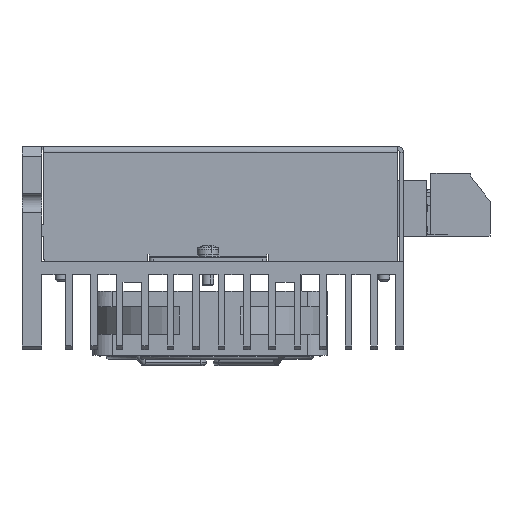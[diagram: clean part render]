
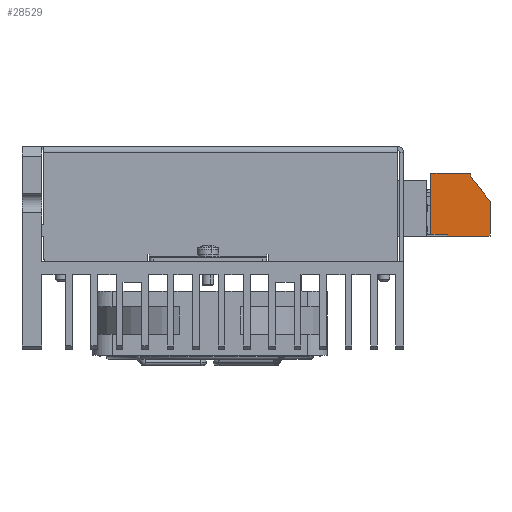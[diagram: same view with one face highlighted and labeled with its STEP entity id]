
A CAD part, left-side view. The second image highlights one B-rep face of the part: STEP entity #28529.
In plain terms, the highlighted planar face has unit normal (-1, 0, 0).
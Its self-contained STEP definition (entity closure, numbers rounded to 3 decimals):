
#335 = EDGE_CURVE ( 'NONE', #77596, #50419, #4626, .T. ) ;
#1155 = DIRECTION ( 'NONE',  ( 0., -1., 0. ) ) ;
#1834 = CARTESIAN_POINT ( 'NONE',  ( -53.21, -67.12, 21.85 ) ) ;
#4158 = DIRECTION ( 'NONE',  ( 0., 0.617, 0.787 ) ) ;
#4205 = CARTESIAN_POINT ( 'NONE',  ( -53.21, -57., 22.6 ) ) ;
#4626 = LINE ( 'NONE', #23368, #54051 ) ;
#4687 = CARTESIAN_POINT ( 'NONE',  ( -53.21, -57., 7.1 ) ) ;
#5167 = ORIENTED_EDGE ( 'NONE', *, *, #17827, .T. ) ;
#7011 = EDGE_CURVE ( 'NONE', #53136, #18068, #33094, .T. ) ;
#7972 = EDGE_CURVE ( 'NONE', #53136, #46392, #25127, .T. ) ;
#14170 = VERTEX_POINT ( 'NONE', #38019 ) ;
#15624 = EDGE_CURVE ( 'NONE', #65568, #50419, #22128, .T. ) ;
#16614 = EDGE_LOOP ( 'NONE', ( #51351, #48481, #5167, #62455, #58965, #42019, #29238, #67018 ) ) ;
#17827 = EDGE_CURVE ( 'NONE', #46392, #65568, #30625, .T. ) ;
#17930 = VECTOR ( 'NONE', #56279, 1000. ) ;
#17975 = CARTESIAN_POINT ( 'NONE',  ( -53.21, -56.1, 7.1 ) ) ;
#18068 = VERTEX_POINT ( 'NONE', #4205 ) ;
#18457 = CARTESIAN_POINT ( 'NONE',  ( -53.21, -61.2, 7.1 ) ) ;
#21250 = CARTESIAN_POINT ( 'NONE',  ( -53.21, -67.12, -31.664 ) ) ;
#22128 = LINE ( 'NONE', #42340, #25213 ) ;
#22526 = LINE ( 'NONE', #35304, #38704 ) ;
#23097 = PLANE ( 'NONE',  #50319 ) ;
#23368 = CARTESIAN_POINT ( 'NONE',  ( -53.21, -72.1, 15.5 ) ) ;
#24749 = EDGE_CURVE ( 'NONE', #77596, #45973, #22526, .T. ) ;
#25022 = VECTOR ( 'NONE', #1155, 1000. ) ;
#25127 = LINE ( 'NONE', #17975, #25022 ) ;
#25213 = VECTOR ( 'NONE', #66698, 1000. ) ;
#27635 = DIRECTION ( 'NONE',  ( 0., 0., 1. ) ) ;
#28529 = ADVANCED_FACE ( 'NONE', ( #34679 ), #23097, .T. ) ;
#29238 = ORIENTED_EDGE ( 'NONE', *, *, #58835, .T. ) ;
#29864 = DIRECTION ( 'NONE',  ( -1., 0., 0. ) ) ;
#30221 = CARTESIAN_POINT ( 'NONE',  ( -53.21, -61.2, 10.33 ) ) ;
#30625 = LINE ( 'NONE', #30221, #42021 ) ;
#33094 = LINE ( 'NONE', #57442, #72132 ) ;
#34679 = FACE_OUTER_BOUND ( 'NONE', #16614, .T. ) ;
#35304 = CARTESIAN_POINT ( 'NONE',  ( -53.21, -72.1, 15.5 ) ) ;
#35754 = DIRECTION ( 'NONE',  ( 0., 0., -1. ) ) ;
#36245 = CARTESIAN_POINT ( 'NONE',  ( -53.21, -61.2, 6.6 ) ) ;
#38019 = CARTESIAN_POINT ( 'NONE',  ( -53.21, -67.12, 22.6 ) ) ;
#38704 = VECTOR ( 'NONE', #4158, 1000. ) ;
#39851 = VECTOR ( 'NONE', #27635, 1000. ) ;
#40680 = CARTESIAN_POINT ( 'NONE',  ( -53.21, -72.1, 15.5 ) ) ;
#42019 = ORIENTED_EDGE ( 'NONE', *, *, #24749, .T. ) ;
#42021 = VECTOR ( 'NONE', #60569, 1000. ) ;
#42340 = CARTESIAN_POINT ( 'NONE',  ( -53.21, -61.2, 6.6 ) ) ;
#45973 = VERTEX_POINT ( 'NONE', #1834 ) ;
#46392 = VERTEX_POINT ( 'NONE', #18457 ) ;
#48481 = ORIENTED_EDGE ( 'NONE', *, *, #7972, .T. ) ;
#50319 = AXIS2_PLACEMENT_3D ( 'NONE', #78168, #29864, #54211 ) ;
#50419 = VERTEX_POINT ( 'NONE', #59587 ) ;
#51351 = ORIENTED_EDGE ( 'NONE', *, *, #7011, .F. ) ;
#51570 = LINE ( 'NONE', #21250, #39851 ) ;
#53136 = VERTEX_POINT ( 'NONE', #4687 ) ;
#54051 = VECTOR ( 'NONE', #35754, 1000. ) ;
#54211 = DIRECTION ( 'NONE',  ( 0., 0., 1. ) ) ;
#56044 = EDGE_CURVE ( 'NONE', #18068, #14170, #63074, .T. ) ;
#56279 = DIRECTION ( 'NONE',  ( 0., -1., 0. ) ) ;
#57442 = CARTESIAN_POINT ( 'NONE',  ( -53.21, -57., -31.664 ) ) ;
#58835 = EDGE_CURVE ( 'NONE', #45973, #14170, #51570, .T. ) ;
#58965 = ORIENTED_EDGE ( 'NONE', *, *, #335, .F. ) ;
#59587 = CARTESIAN_POINT ( 'NONE',  ( -53.21, -72.1, 6.6 ) ) ;
#60569 = DIRECTION ( 'NONE',  ( 0., 0., -1. ) ) ;
#62241 = DIRECTION ( 'NONE',  ( 0., 0., 1. ) ) ;
#62455 = ORIENTED_EDGE ( 'NONE', *, *, #15624, .T. ) ;
#63074 = LINE ( 'NONE', #68241, #17930 ) ;
#65568 = VERTEX_POINT ( 'NONE', #36245 ) ;
#66698 = DIRECTION ( 'NONE',  ( 0., -1., 0. ) ) ;
#67018 = ORIENTED_EDGE ( 'NONE', *, *, #56044, .F. ) ;
#68241 = CARTESIAN_POINT ( 'NONE',  ( -53.21, -67.12, 22.6 ) ) ;
#72132 = VECTOR ( 'NONE', #62241, 1000. ) ;
#77596 = VERTEX_POINT ( 'NONE', #40680 ) ;
#78168 = CARTESIAN_POINT ( 'NONE',  ( -53.21, -56.1, 10.33 ) ) ;
